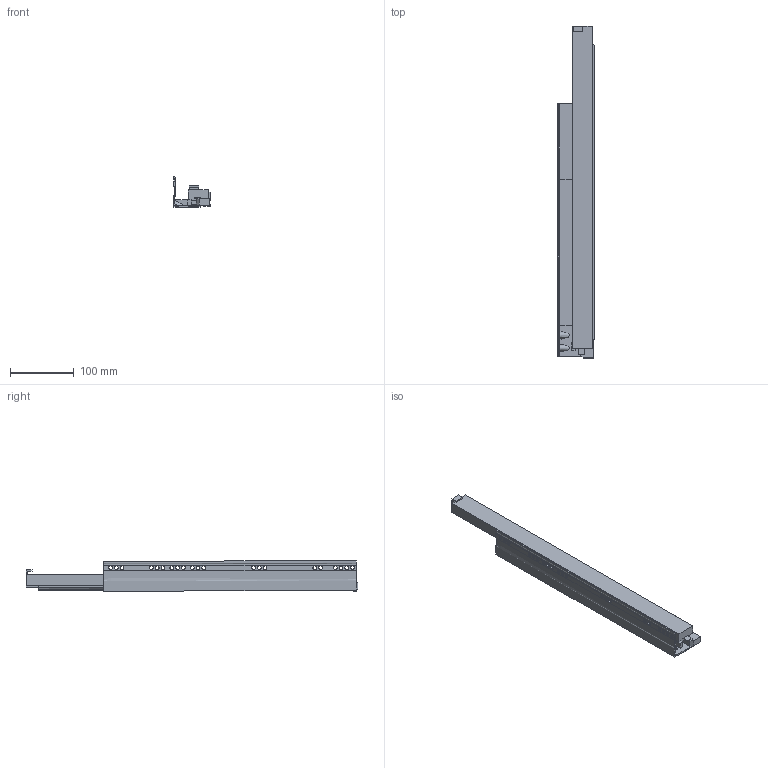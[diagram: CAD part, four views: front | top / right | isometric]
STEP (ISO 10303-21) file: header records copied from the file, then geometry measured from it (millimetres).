
FILE_DESCRIPTION (( 'STEP AP214' ), '1' );
FILE_NAME ('_IMOS_Dynapro_Softclose_D516_NL_520_LI.step', '2010-07-16T06:01:30', ( 'grass' ), ( '' ), 'SwSTEP 2.0', 'SolidWorks 2009', '' );
FILE_SCHEMA (( 'AUTOMOTIVE_DESIGN' ));
Length unit declared in the file: millimetre
Products named in the file (1): _IMOS_Dynapro_Softclose_D516_NL_520_LI
Bounding box: 57.08 x 520.07 x 47.86 mm (x, y, z)
Volume: 457244 mm3; surface area: 151351.2 mm2
Topology: 1 solids, 1 shells, 125 faces, 424 edges, 297 vertices
Faces by surface type: plane 76, cylinder 42, bspline 7
Entity records: 5458 total; most frequent: CARTESIAN_POINT 1561, ORIENTED_EDGE 840, DIRECTION 760, EDGE_CURVE 420, VECTOR 312, LINE 312, VERTEX_POINT 297, AXIS2_PLACEMENT_3D 224
